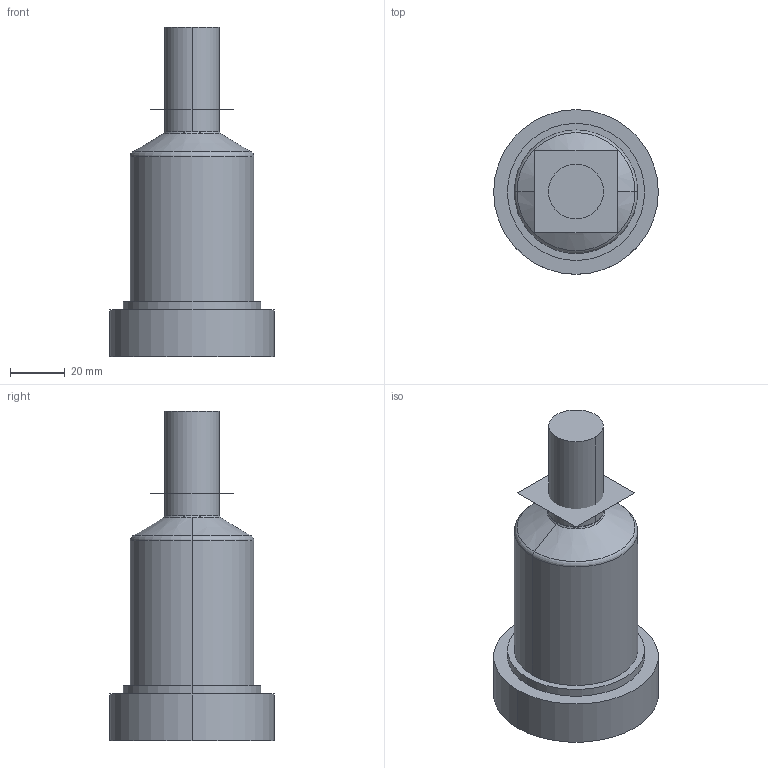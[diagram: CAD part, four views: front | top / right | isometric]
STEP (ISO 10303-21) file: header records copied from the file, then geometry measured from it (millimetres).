
FILE_DESCRIPTION (( 'STEP AP214' ), '1' );
FILE_NAME ('16E-06-090-##P.STEP', '2021-07-14T13:35:10', ( '' ), ( '' ), 'SwSTEP 2.0', 'SolidWorks 2018', '' );
FILE_SCHEMA (( 'AUTOMOTIVE_DESIGN' ));
Length unit declared in the file: millimetre
Products named in the file (3): cutout_16E-06-090-##P; 16E-06-090-##P; nozzle_16E-06-090-##P
Assembly tree (2 placements, depth 2):
  16E-06-090-##P
    nozzle_16E-06-090-##P
    cutout_16E-06-090-##P
Bounding box: 60 x 60 x 120 mm (x, y, z)
Volume: 158488.2 mm3; surface area: 48115.1 mm2
Topology: 1 solids, 4 shells, 274 faces, 796 edges, 490 vertices
Faces by surface type: plane 113, cylinder 111, torus 27, cone 23
Entity records: 9973 total; most frequent: CARTESIAN_POINT 2386, DIRECTION 1674, ORIENTED_EDGE 1588, EDGE_CURVE 796, AXIS2_PLACEMENT_3D 654, VERTEX_POINT 490, CIRCLE 374, LINE 366
